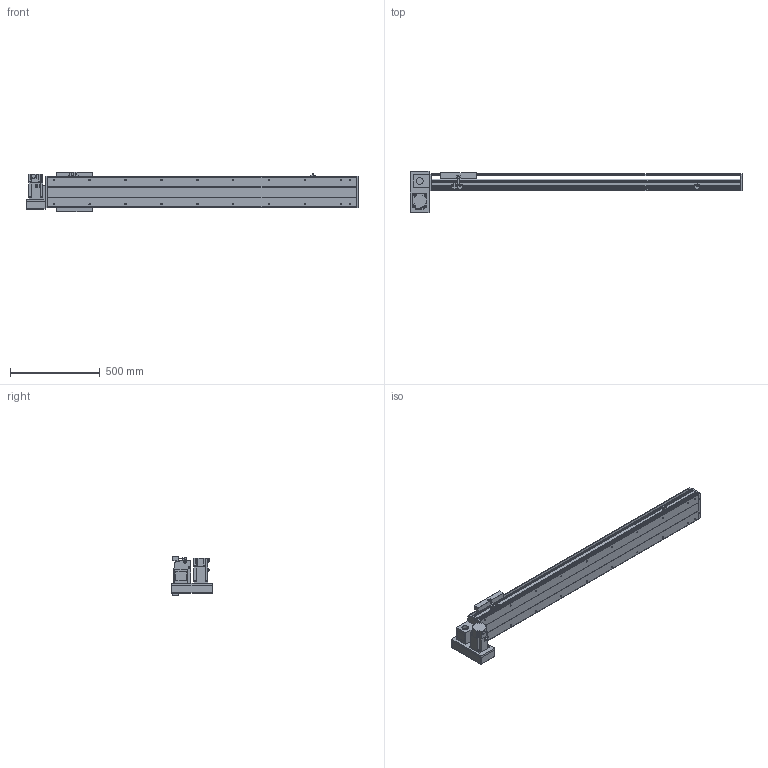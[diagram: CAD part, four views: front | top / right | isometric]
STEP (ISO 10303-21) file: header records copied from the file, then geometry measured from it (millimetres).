
FILE_DESCRIPTION(/* description */ ('STEP AP214'),/* implementation_level */ '2;1');
FILE_NAME(/* name */ 'PBS200-P40-S1350-LD-T75-C1-N(0)',/* time_stamp */ '2022-06-11T08:44:46+02:00',/* author */ ('License CC BY-ND 4.0'),/* organization */ ('CADENAS'),/* preprocessor_version */ 'ST-DEVELOPER v18.102',/* originating_system */ 'PARTsolutions',/* authorisation */ ' ');
FILE_SCHEMA (('AUTOMOTIVE_DESIGN {1 0 10303 214 3 1 1}'));
Length unit declared in the file: millimetre
Products named in the file (7): PBS200-P40-S1350-LD-T75-C1-N(0); PBS200_sensor; PBS200_plant; PBS200_sliser; T75-p1; PBS200T-LD_motors; PBS200-S1350()_body
Assembly tree (8 placements, depth 2):
  PBS200-P40-S1350-LD-T75-C1-N(0)
    PBS200_sensor  x3
    PBS200_plant
    PBS200_sliser
    T75-p1
    PBS200T-LD_motors
    PBS200-S1350()_body
Bounding box: 1850 x 230 x 221 mm (x, y, z)
Volume: 13422427.9 mm3; surface area: 2164371.2 mm2
Topology: 8 solids, 8 shells, 932 faces, 2394 edges, 1560 vertices
Faces by surface type: plane 578, cylinder 302, cone 52
Full cylindrical faces by diameter (mm): 2.459 x6, 3.242 x4, 4.5 x6, 4.917 x4, 5 x6, 6 x7, 6.6 x8, 6.647 x24, 8 x6, 10 x4, 12 x8, 38 x2, 40 x1, 70 x1
Entity records: 24821 total; most frequent: DIRECTION 4375, CARTESIAN_POINT 4228, ORIENTED_EDGE 4006, EDGE_CURVE 2003, AXIS2_PLACEMENT_3D 1531, VERTEX_POINT 1384, LINE 1313, VECTOR 1313
